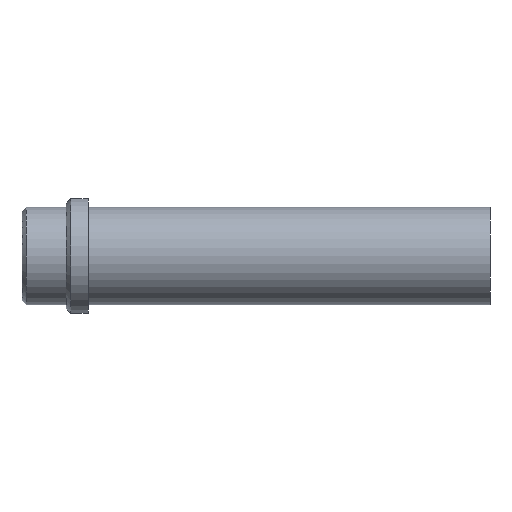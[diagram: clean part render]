
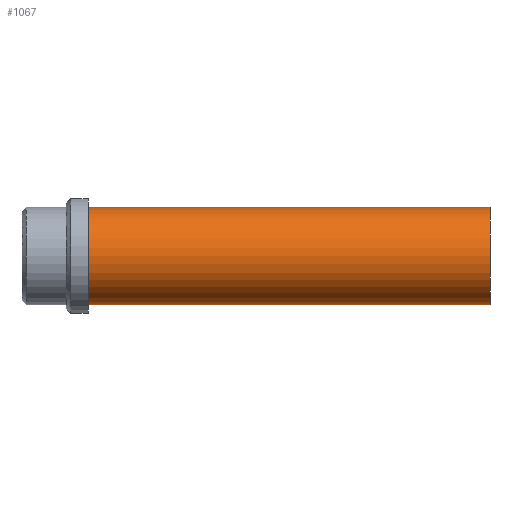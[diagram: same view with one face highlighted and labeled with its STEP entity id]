
A CAD part, front view. The second image highlights one B-rep face of the part: STEP entity #1067.
In plain terms, the highlighted cylindrical face has radius 11 mm (diameter 22 mm), a partial arc.
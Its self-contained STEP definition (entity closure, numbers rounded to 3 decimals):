
#953=CARTESIAN_POINT('Vertex',(0.,0.,-11.)) ;
#958=CARTESIAN_POINT('Axis2P3D Location',(0.,0.,0.)) ;
#962=CARTESIAN_POINT('Vertex',(0.,-11.,0.)) ;
#965=CARTESIAN_POINT('Axis2P3D Location',(0.,0.,0.)) ;
#969=CARTESIAN_POINT('Vertex',(0.,0.,11.)) ;
#995=CARTESIAN_POINT('Vertex',(91.,0.,11.)) ;
#998=CARTESIAN_POINT('Axis2P3D Location',(91.,0.,0.)) ;
#1002=CARTESIAN_POINT('Vertex',(91.,-11.,0.)) ;
#1005=CARTESIAN_POINT('Axis2P3D Location',(91.,0.,0.)) ;
#1009=CARTESIAN_POINT('Vertex',(91.,0.,-11.)) ;
#1035=CARTESIAN_POINT('Line Origine',(91.,0.,11.)) ;
#1040=CARTESIAN_POINT('Line Origine',(91.,0.,-11.)) ;
#1054=CARTESIAN_POINT('Axis2P3D Location',(91.,0.,0.)) ;
#959=DIRECTION('Axis2P3D Direction',(1.,0.,-0.)) ;
#966=DIRECTION('Axis2P3D Direction',(1.,0.,-0.)) ;
#999=DIRECTION('Axis2P3D Direction',(1.,0.,-0.)) ;
#1006=DIRECTION('Axis2P3D Direction',(1.,0.,-0.)) ;
#1036=DIRECTION('Vector Direction',(-1.,0.,0.)) ;
#1041=DIRECTION('Vector Direction',(-1.,0.,0.)) ;
#1055=DIRECTION('Axis2P3D Direction',(-1.,-0.,-0.)) ;
#1056=DIRECTION('Axis2P3D XDirection',(0.,0.,-1.)) ;
#960=AXIS2_PLACEMENT_3D('Circle Axis2P3D',#958,#959,$) ;
#967=AXIS2_PLACEMENT_3D('Circle Axis2P3D',#965,#966,$) ;
#1000=AXIS2_PLACEMENT_3D('Circle Axis2P3D',#998,#999,$) ;
#1007=AXIS2_PLACEMENT_3D('Circle Axis2P3D',#1005,#1006,$) ;
#1057=AXIS2_PLACEMENT_3D('Cylinder Axis2P3D',#1054,#1055,#1056) ;
#1060=ORIENTED_EDGE('',*,*,#1044,.T.) ;
#1061=ORIENTED_EDGE('',*,*,#1011,.F.) ;
#1062=ORIENTED_EDGE('',*,*,#1004,.F.) ;
#1063=ORIENTED_EDGE('',*,*,#1039,.T.) ;
#1064=ORIENTED_EDGE('',*,*,#971,.T.) ;
#1065=ORIENTED_EDGE('',*,*,#964,.T.) ;
#1037=VECTOR('Line Direction',#1036,1.) ;
#1042=VECTOR('Line Direction',#1041,1.) ;
#1067=ADVANCED_FACE('358-16X106',(#1066),#1058,.T.) ;
#961=CIRCLE('generated circle',#960,11.) ;
#968=CIRCLE('generated circle',#967,11.) ;
#1001=CIRCLE('generated circle',#1000,11.) ;
#1008=CIRCLE('generated circle',#1007,11.) ;
#1058=CYLINDRICAL_SURFACE('generated cylinder',#1057,11.) ;
#964=EDGE_CURVE('',#963,#954,#961,.T.) ;
#971=EDGE_CURVE('',#970,#963,#968,.T.) ;
#1004=EDGE_CURVE('',#996,#1003,#1001,.T.) ;
#1011=EDGE_CURVE('',#1003,#1010,#1008,.T.) ;
#1039=EDGE_CURVE('',#996,#970,#1038,.T.) ;
#1044=EDGE_CURVE('',#954,#1010,#1043,.F.) ;
#1059=EDGE_LOOP('',(#1060,#1061,#1062,#1063,#1064,#1065)) ;
#1066=FACE_OUTER_BOUND('',#1059,.T.) ;
#1038=LINE('Line',#1035,#1037) ;
#1043=LINE('Line',#1040,#1042) ;
#954=VERTEX_POINT('',#953) ;
#963=VERTEX_POINT('',#962) ;
#970=VERTEX_POINT('',#969) ;
#996=VERTEX_POINT('',#995) ;
#1003=VERTEX_POINT('',#1002) ;
#1010=VERTEX_POINT('',#1009) ;
